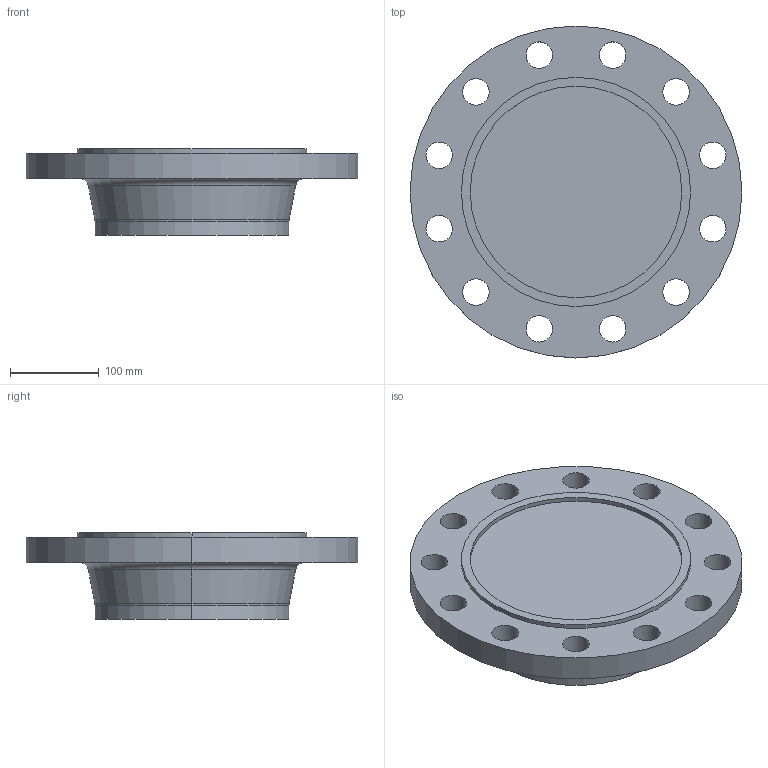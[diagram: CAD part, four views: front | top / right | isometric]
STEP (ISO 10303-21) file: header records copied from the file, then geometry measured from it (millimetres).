
FILE_DESCRIPTION (( 'STEP AP214' ), '1' );
FILE_NAME ('PN40 DN200 Type 21(ii) - Type C Face.STEP', '2019-01-05T02:00:35', ( '' ), ( '' ), 'SwSTEP 2.0', 'SolidWorks 2019', '' );
FILE_SCHEMA (( 'AUTOMOTIVE_DESIGN' ));
Length unit declared in the file: millimetre
Products named in the file (1): PN40 DN200 Type 21(ii) - Type C Face
Bounding box: 375 x 375 x 98 mm (x, y, z)
Volume: 5572654.6 mm3; surface area: 316181 mm2
Topology: 1 solids, 1 shells, 43 faces, 108 edges, 70 vertices
Faces by surface type: cylinder 32, plane 5, torus 4, cone 2
Entity records: 1410 total; most frequent: DIRECTION 270, CARTESIAN_POINT 222, ORIENTED_EDGE 216, AXIS2_PLACEMENT_3D 118, EDGE_CURVE 108, CIRCLE 74, VERTEX_POINT 70, EDGE_LOOP 70
